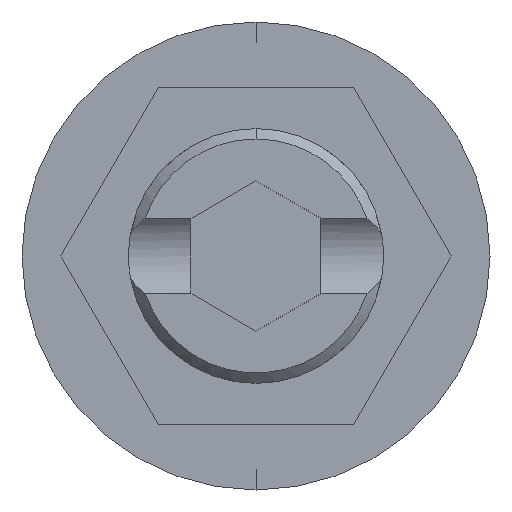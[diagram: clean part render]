
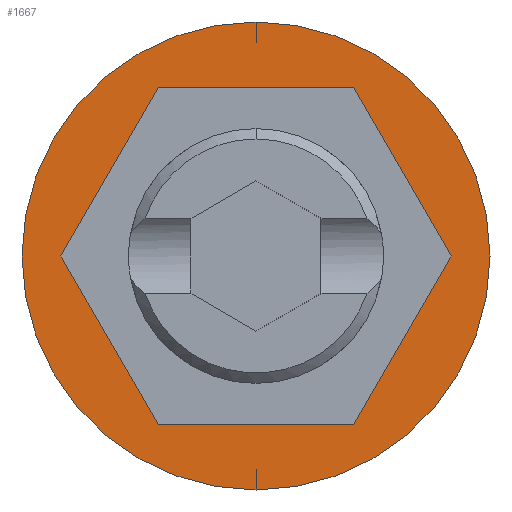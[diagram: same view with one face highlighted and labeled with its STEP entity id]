
A CAD part, front view. The second image highlights one B-rep face of the part: STEP entity #1667.
In plain terms, the highlighted planar face has unit normal (0, -1, 0).
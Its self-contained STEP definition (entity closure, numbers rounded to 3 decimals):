
#92 = FACE_OUTER_BOUND ( 'NONE', #1713, .T. ) ;
#117 = VERTEX_POINT ( 'NONE', #2064 ) ;
#123 = EDGE_CURVE ( 'NONE', #1455, #455, #1037, .T. ) ;
#201 = DIRECTION ( 'NONE',  ( -0.5, 0., 0.866 ) ) ;
#212 = CARTESIAN_POINT ( 'NONE',  ( 1.876, 0., -3.25 ) ) ;
#215 = DIRECTION ( 'NONE',  ( -0.5, 0., -0.866 ) ) ;
#247 = VECTOR ( 'NONE', #697, 1000. ) ;
#271 = CARTESIAN_POINT ( 'NONE',  ( -3.753, 0., 0. ) ) ;
#342 = DIRECTION ( 'NONE',  ( -1., 0., 0. ) ) ;
#344 = ORIENTED_EDGE ( 'NONE', *, *, #1634, .F. ) ;
#390 = VERTEX_POINT ( 'NONE', #1135 ) ;
#422 = DIRECTION ( 'NONE',  ( 0., -1., 0. ) ) ;
#455 = VERTEX_POINT ( 'NONE', #1815 ) ;
#461 = ORIENTED_EDGE ( 'NONE', *, *, #833, .F. ) ;
#466 = VERTEX_POINT ( 'NONE', #1681 ) ;
#471 = AXIS2_PLACEMENT_3D ( 'NONE', #1423, #422, #1591 ) ;
#492 = AXIS2_PLACEMENT_3D ( 'NONE', #704, #2045, #1046 ) ;
#533 = CARTESIAN_POINT ( 'NONE',  ( -1.876, 0., -3.25 ) ) ;
#543 = PLANE ( 'NONE',  #492 ) ;
#562 = ORIENTED_EDGE ( 'NONE', *, *, #595, .F. ) ;
#572 = ORIENTED_EDGE ( 'NONE', *, *, #2030, .F. ) ;
#595 = EDGE_CURVE ( 'NONE', #117, #1452, #998, .T. ) ;
#601 = CARTESIAN_POINT ( 'NONE',  ( 0., 0., 0. ) ) ;
#641 = VECTOR ( 'NONE', #201, 1000. ) ;
#649 = CARTESIAN_POINT ( 'NONE',  ( 1.876, 0., -3.25 ) ) ;
#697 = DIRECTION ( 'NONE',  ( 1., 0., 0. ) ) ;
#704 = CARTESIAN_POINT ( 'NONE',  ( 0., 0., 0. ) ) ;
#709 = CARTESIAN_POINT ( 'NONE',  ( -1.876, 0., 3.25 ) ) ;
#729 = DIRECTION ( 'NONE',  ( 0.5, 0., 0.866 ) ) ;
#775 = DIRECTION ( 'NONE',  ( 0., 0., -1. ) ) ;
#833 = EDGE_CURVE ( 'NONE', #1107, #117, #926, .T. ) ;
#855 = ORIENTED_EDGE ( 'NONE', *, *, #1140, .T. ) ;
#860 = CARTESIAN_POINT ( 'NONE',  ( 3.753, 0., 0. ) ) ;
#904 = LINE ( 'NONE', #271, #2121 ) ;
#912 = EDGE_CURVE ( 'NONE', #466, #1455, #1525, .T. ) ;
#926 = LINE ( 'NONE', #1675, #1322 ) ;
#950 = VECTOR ( 'NONE', #215, 1000. ) ;
#998 = LINE ( 'NONE', #709, #950 ) ;
#1037 = LINE ( 'NONE', #212, #1930 ) ;
#1046 = DIRECTION ( 'NONE',  ( 0., 0., -1. ) ) ;
#1107 = VERTEX_POINT ( 'NONE', #1249 ) ;
#1135 = CARTESIAN_POINT ( 'NONE',  ( 0., 0., 4.5 ) ) ;
#1140 = EDGE_CURVE ( 'NONE', #390, #1937, #2095, .T. ) ;
#1249 = CARTESIAN_POINT ( 'NONE',  ( 1.876, 0., 3.25 ) ) ;
#1284 = DIRECTION ( 'NONE',  ( 0.5, 0., -0.866 ) ) ;
#1322 = VECTOR ( 'NONE', #342, 1000. ) ;
#1352 = CIRCLE ( 'NONE', #1595, 4.5 ) ;
#1380 = ORIENTED_EDGE ( 'NONE', *, *, #912, .F. ) ;
#1423 = CARTESIAN_POINT ( 'NONE',  ( 0., 0., 0. ) ) ;
#1452 = VERTEX_POINT ( 'NONE', #2147 ) ;
#1455 = VERTEX_POINT ( 'NONE', #649 ) ;
#1507 = EDGE_LOOP ( 'NONE', ( #1380, #572, #562, #461, #344, #2015 ) ) ;
#1525 = LINE ( 'NONE', #533, #247 ) ;
#1591 = DIRECTION ( 'NONE',  ( 0., 0., -1. ) ) ;
#1595 = AXIS2_PLACEMENT_3D ( 'NONE', #601, #1777, #775 ) ;
#1634 = EDGE_CURVE ( 'NONE', #455, #1107, #1979, .T. ) ;
#1643 = ORIENTED_EDGE ( 'NONE', *, *, #2024, .T. ) ;
#1667 = ADVANCED_FACE ( 'NONE', ( #1817, #92 ), #543, .T. ) ;
#1675 = CARTESIAN_POINT ( 'NONE',  ( 1.876, 0., 3.25 ) ) ;
#1681 = CARTESIAN_POINT ( 'NONE',  ( -1.876, 0., -3.25 ) ) ;
#1713 = EDGE_LOOP ( 'NONE', ( #1643, #855 ) ) ;
#1743 = CARTESIAN_POINT ( 'NONE',  ( 0., 0., -4.5 ) ) ;
#1777 = DIRECTION ( 'NONE',  ( 0., -1., 0. ) ) ;
#1815 = CARTESIAN_POINT ( 'NONE',  ( 3.753, 0., 0. ) ) ;
#1817 = FACE_BOUND ( 'NONE', #1507, .T. ) ;
#1930 = VECTOR ( 'NONE', #729, 1000. ) ;
#1937 = VERTEX_POINT ( 'NONE', #1743 ) ;
#1979 = LINE ( 'NONE', #860, #641 ) ;
#2015 = ORIENTED_EDGE ( 'NONE', *, *, #123, .F. ) ;
#2024 = EDGE_CURVE ( 'NONE', #1937, #390, #1352, .T. ) ;
#2030 = EDGE_CURVE ( 'NONE', #1452, #466, #904, .T. ) ;
#2045 = DIRECTION ( 'NONE',  ( 0., -1., 0. ) ) ;
#2064 = CARTESIAN_POINT ( 'NONE',  ( -1.876, 0., 3.25 ) ) ;
#2095 = CIRCLE ( 'NONE', #471, 4.5 ) ;
#2121 = VECTOR ( 'NONE', #1284, 1000. ) ;
#2147 = CARTESIAN_POINT ( 'NONE',  ( -3.753, 0., 0. ) ) ;
